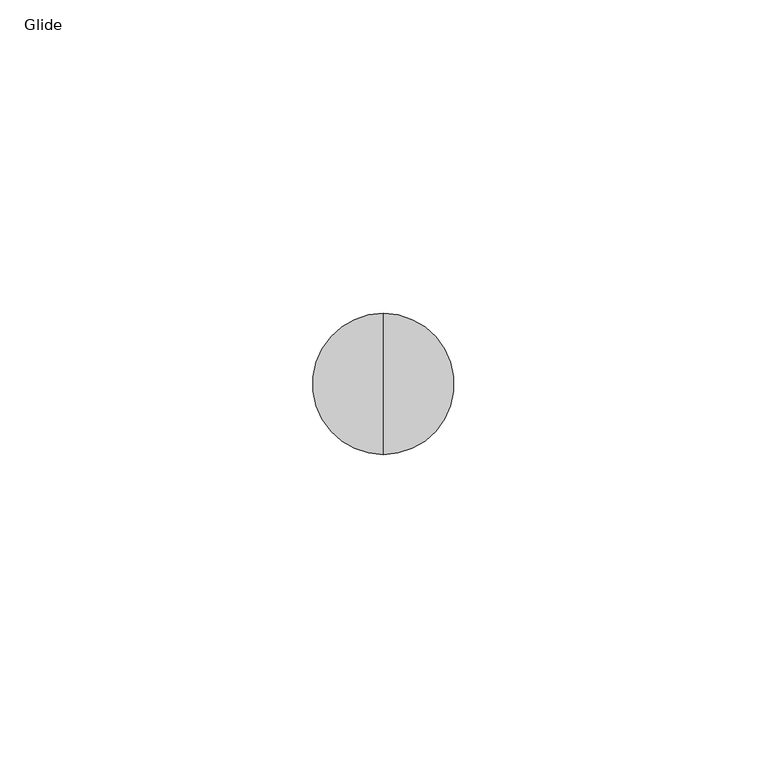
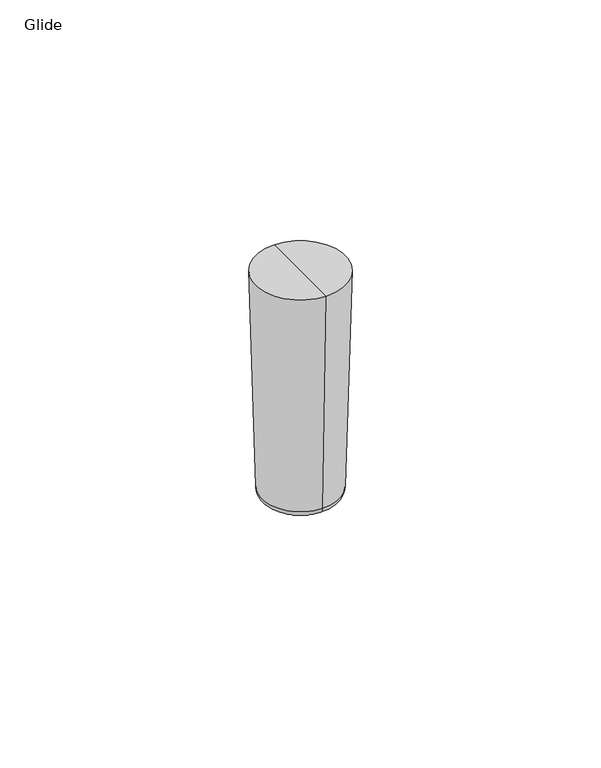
"""IFC4 building model written with IfcOpenShell, lengths in millimetres: furniture geometry, SmithSystem_AM_Accesory_Numbers_Casters : Glide."""

import ifcopenshell
import ifcopenshell.guid

model = None  # the IFC model being written
_history = None  # IfcOwnerHistory: only IFC2X3 demands one
_inside = {}  # id of a spatial element -> (the spatial element, [elements in it])
_under = {}  # id of a project, library or spatial element -> (it, [spatial elements below it])
_declared = {}  # id of a project -> (the project, [libraries it declares])
_typed = {}  # id of a type object -> (the type object, [elements of that type])
_made_of = {}  # id of a material, layer set ... -> (it, [elements and type objects made of it])


def new_model(schema):
    """Start an empty IFC model of exactly this schema.

    Asked for "IFC4X3", IfcOpenShell would pick the latest addendum, in which some entities
    have other attributes; the version numbers below select the first issue.
    IFC2X3 requires an IfcOwnerHistory on every rooted entity: one is made here for all.
    """
    global model, _history
    if schema == "IFC4X3":
        model = ifcopenshell.file(schema_version=(4, 3, 0, 0))
    else:
        model = ifcopenshell.file(schema=schema)
    _inside.clear()
    _under.clear()
    _declared.clear()
    _typed.clear()
    _made_of.clear()
    _history = None
    if model.schema == "IFC2X3":
        org = make("IfcOrganization", Name="unknown")
        user = make(
            "IfcPersonAndOrganization",
            ThePerson=make("IfcPerson", FamilyName="unknown"),
            TheOrganization=org,
        )
        app = make(
            "IfcApplication",
            ApplicationDeveloper=org,
            Version="unknown",
            ApplicationFullName="unknown",
            ApplicationIdentifier="unknown",
        )
        _history = make(
            "IfcOwnerHistory",
            OwningUser=user,
            OwningApplication=app,
            ChangeAction="ADDED",
            CreationDate=0,
        )
    return model


def make(cls, **values):
    """One entity of the class cls with the attributes given. An attribute that is None is left unset."""
    return model.create_entity(
        cls, **{name: value for name, value in values.items() if value is not None}
    )


def rooted(cls, **values):
    """An entity with a GlobalId (a new one), such as an element, a storey or a relation."""
    return make(cls, GlobalId=ifcopenshell.guid.new(), OwnerHistory=_history, **values)


def si_unit(unit_type, name, prefix=None):
    """IfcSIUnit, for example si_unit("LENGTHUNIT", "METRE", prefix="MILLI")."""
    return make("IfcSIUnit", UnitType=unit_type, Prefix=prefix, Name=name)


def assignment(units):
    """IfcUnitAssignment: the units of a project."""
    return None if units is None else make("IfcUnitAssignment", Units=units)


def point(xyz):
    """IfcCartesianPoint."""
    return None if xyz is None else make("IfcCartesianPoint", Coordinates=xyz)


def direction(xyz):
    """IfcDirection."""
    return None if xyz is None else make("IfcDirection", DirectionRatios=xyz)


def frame(location, z_axis=None, x_axis=None):
    """IfcAxis2Placement3D, a coordinate frame: its origin and axes. An axis left out is left unset."""
    return make(
        "IfcAxis2Placement3D",
        Location=point(location),
        Axis=direction(z_axis),
        RefDirection=direction(x_axis),
    )


def origin():
    """The frame at (0, 0, 0) with its axes left unset."""
    return frame((0.0, 0.0, 0.0))


def place(relative_to, where):
    """IfcLocalPlacement: puts the frame where relative to a parent placement (None: the world)."""
    return make(
        "IfcLocalPlacement", PlacementRelTo=relative_to, RelativePlacement=where
    )


def context(
    kind, dimensions, precision=None, world=None, true_north=None, identifier=None
):
    """IfcGeometricRepresentationContext, for example the 3D "Model" context."""
    return make(
        "IfcGeometricRepresentationContext",
        ContextIdentifier=identifier,
        ContextType=kind,
        CoordinateSpaceDimension=dimensions,
        Precision=precision,
        WorldCoordinateSystem=world,
        TrueNorth=true_north,
    )


def project(units=None, contexts=None):
    """IfcProject with its units and contexts."""
    return rooted(
        "IfcProject",
        Name="project",
        RepresentationContexts=contexts,
        UnitsInContext=assignment(units),
    )


def spatial(cls, under=None, at=None, **own):
    """A site, building, storey or space (cls), placed at a placement, below another one or the project."""
    s = rooted(cls, ObjectPlacement=at, **own)
    if under is not None:
        _under.setdefault(under.id(), (under, []))[1].append(s)
    return s


def polyline(points):
    """IfcPolyline through the points."""
    return make("IfcPolyline", Points=[point(p) for p in points])


def circle_curve(where, radius):
    """IfcCircle in the frame where."""
    return make("IfcCircle", Position=where, Radius=radius)


def ellipse_curve(where, semi_axis1, semi_axis2):
    """IfcEllipse in the frame where."""
    return make(
        "IfcEllipse", Position=where, SemiAxis1=semi_axis1, SemiAxis2=semi_axis2
    )


def trimmed(basis, trim1, trim2, sense, master):
    """IfcTrimmedCurve: the piece of a basis curve between two trims."""
    return make(
        "IfcTrimmedCurve",
        BasisCurve=basis,
        Trim1=trim1,
        Trim2=trim2,
        SenseAgreement=sense,
        MasterRepresentation=master,
    )


def shape(context_of_items, identifier, shape_type, items):
    """IfcShapeRepresentation: the items that make up one representation, for example the "Body"."""
    return make(
        "IfcShapeRepresentation",
        ContextOfItems=context_of_items,
        RepresentationIdentifier=identifier,
        RepresentationType=shape_type,
        Items=items,
    )


def source(mapping_origin, context_of_items, identifier, shape_type, items):
    """IfcRepresentationMap: a shape defined once, which mapped items show again and again."""
    return make(
        "IfcRepresentationMap",
        MappingOrigin=mapping_origin,
        MappedRepresentation=shape(context_of_items, identifier, shape_type, items),
    )


def transform(
    local_origin,
    x_axis=None,
    y_axis=None,
    z_axis=None,
    scale=None,
    scale2=None,
    scale3=None,
    uniform=True,
):
    """IfcCartesianTransformationOperator3D, or its non-uniform kind. x_axis, y_axis, z_axis: its Axis1, 2, 3."""
    if uniform:
        return make(
            "IfcCartesianTransformationOperator3D",
            Axis1=direction(x_axis),
            Axis2=direction(y_axis),
            LocalOrigin=point(local_origin),
            Scale=scale,
            Axis3=direction(z_axis),
        )
    return make(
        "IfcCartesianTransformationOperator3DnonUniform",
        Axis1=direction(x_axis),
        Axis2=direction(y_axis),
        LocalOrigin=point(local_origin),
        Scale=scale,
        Axis3=direction(z_axis),
        Scale2=scale2,
        Scale3=scale3,
    )


def mapped(mapping_source, mapping_target):
    """IfcMappedItem: shows the shape of a source again, moved by a transform."""
    return make(
        "IfcMappedItem", MappingSource=mapping_source, MappingTarget=mapping_target
    )


def made_of(thing, what):
    """Note that an element or type object is made of a material, layer set ...; save() writes the relation."""
    if what is not None:
        _made_of.setdefault(what.id(), (what, []))[1].append(thing)
    return thing


def element(
    cls,
    number,
    at=None,
    inside=None,
    cuts=None,
    type_object=None,
    material=None,
    context=None,
    identifier="Body",
    shape_type=None,
    held_by="IfcProductDefinitionShape",
    body=None,
    shapes=None,
    **own,
):
    """One element of the class cls, such as IfcWall. Its Tag is "e" and its number.

    at: its placement. inside: the storey or other place that contains it. cuts: it is an
    opening in that element (IfcRelVoidsElement). A single representation is given by context,
    identifier, shape_type and body (its items); several are given by shapes. held_by: the class
    of the entity that holds the representations. save() writes the other relations.
    """
    e = rooted(cls, Tag="e%d" % number, ObjectPlacement=at, **own)
    if body is not None:
        shapes = [shape(context, identifier, shape_type, body)]
    if shapes is not None:
        e.Representation = make(held_by, Representations=shapes)
    if inside is not None:
        _inside.setdefault(inside.id(), (inside, []))[1].append(e)
    if cuts is not None:
        rooted(
            "IfcRelVoidsElement", RelatingBuildingElement=cuts, RelatedOpeningElement=e
        )
    if type_object is not None:
        _typed.setdefault(type_object.id(), (type_object, []))[1].append(e)
    return made_of(e, material)


def aggregate(whole, parts):
    """IfcRelAggregates: a whole, such as a stair, and the parts it consists of."""
    return rooted("IfcRelAggregates", RelatingObject=whole, RelatedObjects=parts)


def save(model, path):
    """Write the relations noted so far, then the file.

    IfcRelAggregates (storeys below a building ...), IfcRelContainedInSpatialStructure (elements
    in a storey), IfcRelDefinesByType, IfcRelAssociatesMaterial and IfcRelDeclares: one each for
    every whole, place, type object, material and project.
    """
    for whole, parts in _under.values():
        aggregate(whole, parts)
    for where, things in _inside.values():
        rooted(
            "IfcRelContainedInSpatialStructure",
            RelatedElements=things,
            RelatingStructure=where,
        )
    for kind, things in _typed.values():
        rooted("IfcRelDefinesByType", RelatedObjects=things, RelatingType=kind)
    for what, things in _made_of.values():
        rooted("IfcRelAssociatesMaterial", RelatedObjects=things, RelatingMaterial=what)
    for by, libraries in _declared.values():
        rooted("IfcRelDeclares", RelatingContext=by, RelatedDefinitions=libraries)
    model.write(path)


def plane_surface(at):
    """IfcPlane: the flat surface through the origin of the frame at, square to its z axis."""
    return make("IfcPlane", Position=at)


def revolved_surface(curve, axis_point, axis_direction):
    """IfcSurfaceOfRevolution: the curve turned about the line through axis_point along axis_direction."""
    return make(
        "IfcSurfaceOfRevolution",
        SweptCurve=make("IfcArbitraryOpenProfileDef", ProfileType="CURVE", Curve=curve),
        AxisPosition=make("IfcAxis1Placement", Location=point(axis_point), Axis=direction(axis_direction)),
    )


def advanced_brep(points, edges, surfaces, faces):
    """IfcAdvancedBrep: a solid bounded by faces that lie on surfaces and meet in shared edges.

    An edge is (start, end): straight between two places in points (the first is 0);
    or (start, end, curve); or (start, end, curve, False) where it runs against its curve.
    A face is (place in surfaces, loops), or (place, loops, False) where it looks against
    its surface's normal. A loop lists edges by number (the first is 1), with a minus sign
    where the edge is run from its end to its start. The first loop is the outer one.
    """
    corners = [point(p) for p in points]
    vertices = [make("IfcVertexPoint", VertexGeometry=c) for c in corners]
    made = []
    for start, end, *more in edges:
        made.append(
            make(
                "IfcEdgeCurve",
                EdgeStart=vertices[start],
                EdgeEnd=vertices[end],
                EdgeGeometry=more[0] if more else make("IfcPolyline", Points=[corners[start], corners[end]]),
                SameSense=more[1] if len(more) > 1 else True,
            )
        )
    hull = []
    for where, loops, *sense in faces:
        bounds = []
        for j, loop in enumerate(loops):
            ring = [make("IfcOrientedEdge", EdgeElement=made[abs(k) - 1], Orientation=k > 0) for k in loop]
            bounds.append(
                make(
                    "IfcFaceOuterBound" if j == 0 else "IfcFaceBound",
                    Bound=make("IfcEdgeLoop", EdgeList=ring),
                    Orientation=True,
                )
            )
        hull.append(make("IfcAdvancedFace", Bounds=bounds, FaceSurface=surfaces[where], SameSense=sense[0] if sense else True))
    return make("IfcAdvancedBrep", Outer=make("IfcClosedShell", CfsFaces=hull))


def glide_2aabda07(model_context):
    return source(origin(), model_context, "Body", "AdvancedBrep", [
        advanced_brep(
        [(-0.418455, 12.9693096, 60.300003), (-0.418455, 1.7140009, 60.300003), (-0.418455, 24.2246182, 60.300003), (-0.418455, 10.1808185, 0.0), (-0.418455, 12.9693096, 0.0), (-0.418455, 15.7578007, 0.0), (-0.418455, 6.0685423, 0.7384974), (-0.418455, 19.8700768, 0.7384974), (-0.418455, 4.4329901, 1.3455105), (-0.418455, 21.505629, 1.3455105), (-0.418455, 3.2467449, 3.0033379), (-0.418455, 22.6918743, 3.0033379)],
        [
            (0, 1),
            (1, 2, circle_curve(frame((-0.418455, 12.9693096, 60.300003), z_axis=(0.0, 0.0, 1.0), x_axis=(0.0, 1.0, 0.0)), 11.2553086)),
            (2, 0),
            (2, 1, circle_curve(frame((-0.418455, 12.9693096, 60.300003), z_axis=(0.0, 0.0, 1.0), x_axis=(0.0, 1.0, 0.0)), 11.2553086)),
            (3, 4),
            (4, 5),
            (5, 3, circle_curve(frame((-0.418455, 12.9693096, 0.0), z_axis=(0.0, 0.0, -1.0), x_axis=(0.0, 1.0, 0.0)), 2.7884911)),
            (3, 5, circle_curve(frame((-0.418455, 12.9693096, 0.0), z_axis=(0.0, 0.0, -1.0), x_axis=(0.0, 1.0, 0.0)), 2.7884911)),
            (6, 3, circle_curve(frame((-0.418455, 10.1808185, 11.8187236), z_axis=(1.0, 0.0, 0.0), x_axis=(0.0, -1.0, 0.0)), 11.8187236)),
            (5, 7, circle_curve(frame((-0.418455, 15.7578007, 11.8187236), z_axis=(1.0, 0.0, 0.0), x_axis=(0.0, 1.0, 0.0)), 11.8187236)),
            (7, 6, circle_curve(frame((-0.418455, 12.9693096, 0.7384974), z_axis=(0.0, 0.0, -1.0), x_axis=(0.0, 1.0, 0.0)), 6.9007672)),
            (6, 7, circle_curve(frame((-0.418455, 12.9693096, 0.7384974), z_axis=(0.0, 0.0, -1.0), x_axis=(0.0, 1.0, 0.0)), 6.9007672)),
            (8, 6),
            (7, 9),
            (9, 8, circle_curve(frame((-0.418455, 12.9693096, 1.3455105), z_axis=(0.0, 0.0, -1.0), x_axis=(0.0, 1.0, 0.0)), 8.5363195)),
            (8, 9, circle_curve(frame((-0.418455, 12.9693096, 1.3455105), z_axis=(0.0, 0.0, -1.0), x_axis=(0.0, 1.0, 0.0)), 8.5363195)),
            (10, 8, circle_curve(frame((-0.418455, 5.0663358, 3.0520138), z_axis=(1.0, 0.0, 0.0), x_axis=(0.0, -1.0, 0.0)), 1.8202418)),
            (9, 11, circle_curve(frame((-0.418455, 20.8722834, 3.0520138), z_axis=(1.0, 0.0, 0.0), x_axis=(0.0, 1.0, 0.0)), 1.8202418)),
            (11, 10, circle_curve(frame((-0.418455, 12.9693096, 3.0033379), z_axis=(0.0, 0.0, -1.0), x_axis=(0.0, 1.0, 0.0)), 9.7225647)),
            (10, 11, circle_curve(frame((-0.418455, 12.9693096, 3.0033379), z_axis=(0.0, 0.0, -1.0), x_axis=(0.0, 1.0, 0.0)), 9.7225647)),
            (1, 10),
            (11, 2),
        ],
        [
            plane_surface(frame((-0.418455, 12.9693096, 60.300003), z_axis=(0.0, 0.0, 1.0), x_axis=(0.0, 1.0, 0.0))),
            plane_surface(frame((-0.418455, 12.9693096, 0.0), z_axis=(0.0, 0.0, -1.0), x_axis=(0.0, 1.0, 0.0))),
            revolved_surface(trimmed(ellipse_curve(frame((-0.418455, 15.7578007, 11.8187236), z_axis=(1.0, 0.0, 0.0), x_axis=(0.0, 1.0, 0.0)), 11.8187236, 11.8187236), [point((-0.418455, 15.7578007, 0.0))], [point((-0.418455, 19.8700768, 0.7384974))], True, "CARTESIAN"), (-0.418455, 12.9693096, 60.300003), (0.0, 0.0, 1.0)),
            revolved_surface(polyline([(-0.418455, 19.8700768, 0.7384974), (-0.418455, 21.505629, 1.3455105)]), (-0.418455, 12.9693096, 60.300003), (0.0, 0.0, 1.0)),
            revolved_surface(trimmed(ellipse_curve(frame((-0.418455, 20.8722834, 3.0520138), z_axis=(1.0, 0.0, 0.0), x_axis=(0.0, 1.0, 0.0)), 1.8202418, 1.8202418), [point((-0.418455, 21.505629, 1.3455105))], [point((-0.418455, 22.6918743, 3.0033379))], True, "CARTESIAN"), (-0.418455, 12.9693096, 60.300003), (0.0, 0.0, 1.0)),
            revolved_surface(polyline([(-0.418455, 22.6918743, 3.0033379), (-0.418455, 24.2246182, 60.300003)]), (-0.418455, 12.9693096, 60.300003), (0.0, 0.0, 1.0)),
        ],
        [
            (0, [[1, 2, 3]]),
            (0, [[-3, 4, -1]]),
            (1, [[5, 6, 7]]),
            (1, [[-6, -5, 8]]),
            (2, [[9, -7, 10, 11]]),
            (2, [[-10, -8, -9, 12]]),
            (3, [[13, -11, 14, 15]]),
            (3, [[-14, -12, -13, 16]]),
            (4, [[17, -15, 18, 19]]),
            (4, [[-18, -16, -17, 20]]),
            (5, [[21, -19, 22, -2]]),
            (5, [[-22, -20, -21, -4]]),
        ],
    ),
    ])


if __name__ == "__main__":
    model = new_model("IFC4")
    model_context = context("Model", 3, world=origin())
    ifc_project = project(units=[si_unit("LENGTHUNIT", "METRE", prefix="MILLI")], contexts=[model_context])
    site = spatial("IfcSite", under=ifc_project)
    building = spatial("IfcBuilding", under=site)
    placement = place(None, origin())
    glide_shape = glide_2aabda07(model_context)
    element("IfcFurniture", 1, ObjectType="SmithSystem_AM_Accesory_Numbers_Casters : Glide", at=placement, inside=building, context=model_context, shape_type="MappedRepresentation", body=[
        mapped(glide_shape, transform((0.0, 0.0, 0.0), x_axis=(1.0, 0.0, 0.0), y_axis=(0.0, 1.0, 0.0), z_axis=(0.0, 0.0, 1.0))),
    ])
    save(model, "model.ifc")
